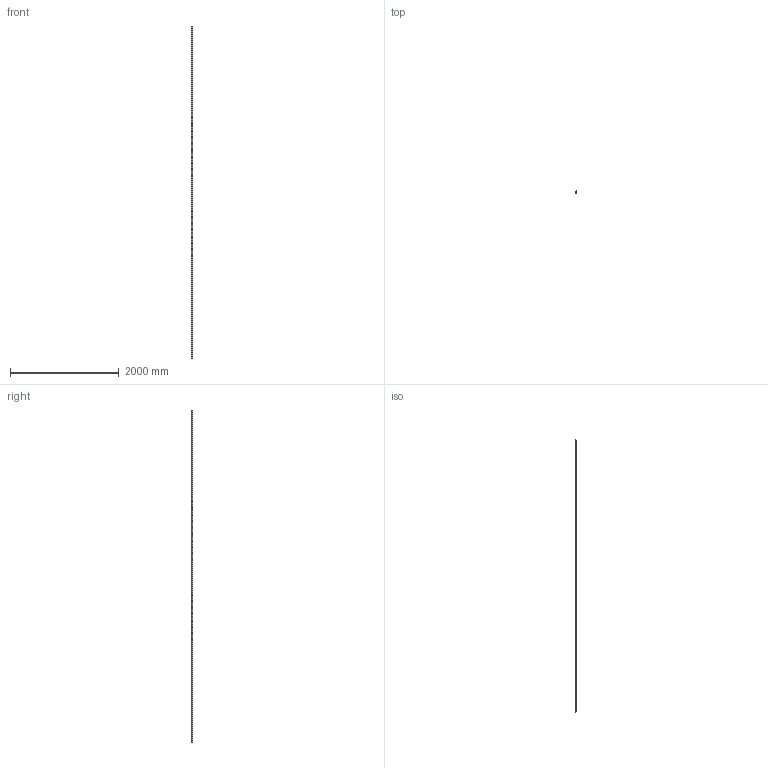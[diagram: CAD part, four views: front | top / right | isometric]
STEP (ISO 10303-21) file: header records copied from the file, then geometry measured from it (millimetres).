
FILE_DESCRIPTION (( 'STEP AP203' ), '1' );
FILE_NAME ('30 x 30 R.STEP', '2012-06-08T19:33:30', ( '' ), ( '' ), 'SwSTEP 2.0', 'SolidWorks 2010', '' );
FILE_SCHEMA (( 'CONFIG_CONTROL_DESIGN' ));
Length unit declared in the file: inch
Products named in the file (1): 30 x 30 R
Bounding box: 30 x 30 x 6100 mm (x, y, z)
Volume: 1727380.8 mm3; surface area: 1900655.8 mm2
Topology: 1 solids, 1 shells, 115 faces, 339 edges, 226 vertices
Faces by surface type: plane 69, cylinder 46
Entity records: 3940 total; most frequent: CARTESIAN_POINT 681, ORIENTED_EDGE 678, DIRECTION 663, EDGE_CURVE 339, VECTOR 247, LINE 247, VERTEX_POINT 226, AXIS2_PLACEMENT_3D 208
